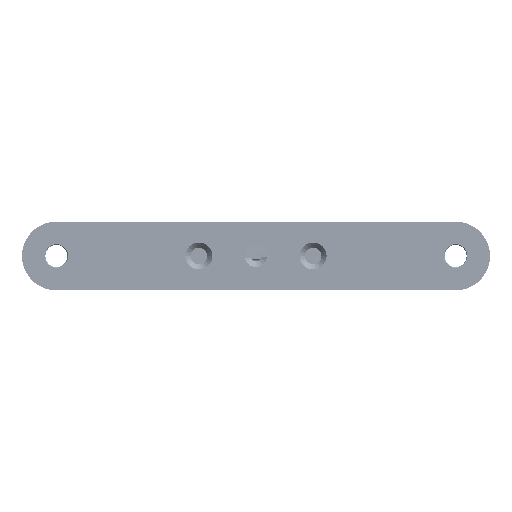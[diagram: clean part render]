
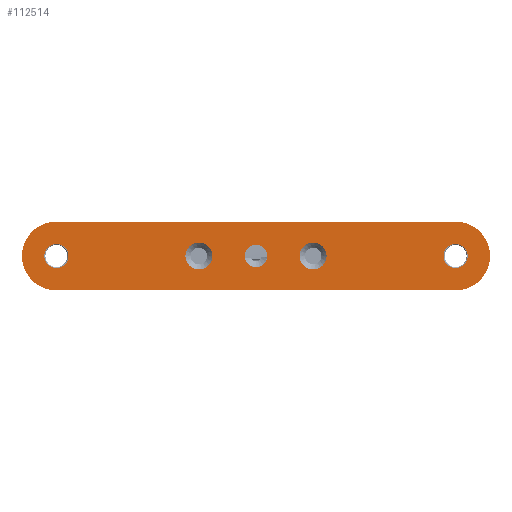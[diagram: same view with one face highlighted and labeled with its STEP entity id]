
A CAD part, front view. The second image highlights one B-rep face of the part: STEP entity #112514.
In plain terms, the highlighted planar face has unit normal (0, -1, 0).
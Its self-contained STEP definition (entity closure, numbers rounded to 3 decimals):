
#1233=PLANE('',#119114);
#4693=FACE_BOUND('',#12349,.T.);
#4694=FACE_BOUND('',#12350,.T.);
#4695=FACE_BOUND('',#12351,.T.);
#4696=FACE_BOUND('',#12352,.T.);
#4697=FACE_BOUND('',#12353,.T.);
#5960=FACE_OUTER_BOUND('',#12348,.T.);
#12348=EDGE_LOOP('',(#73387,#73388,#73389,#73390));
#12349=EDGE_LOOP('',(#73391));
#12350=EDGE_LOOP('',(#73392));
#12351=EDGE_LOOP('',(#73393));
#12352=EDGE_LOOP('',(#73394));
#12353=EDGE_LOOP('',(#73395));
#19372=CIRCLE('',#119086,1.95);
#19373=CIRCLE('',#119088,1.95);
#19378=CIRCLE('',#119098,1.65);
#19380=CIRCLE('',#119102,1.75);
#19381=CIRCLE('',#119104,1.75);
#19388=CIRCLE('',#119115,5.);
#19389=CIRCLE('',#119116,5.);
#25294=LINE('',#165681,#35663);
#25295=LINE('',#165684,#35664);
#35663=VECTOR('',#130419,10.);
#35664=VECTOR('',#130422,10.);
#46082=VERTEX_POINT('',#165626);
#46083=VERTEX_POINT('',#165630);
#46088=VERTEX_POINT('',#165648);
#46089=VERTEX_POINT('',#165654);
#46090=VERTEX_POINT('',#165658);
#46095=VERTEX_POINT('',#165677);
#46096=VERTEX_POINT('',#165678);
#46097=VERTEX_POINT('',#165680);
#46098=VERTEX_POINT('',#165682);
#56317=EDGE_CURVE('',#46082,#46082,#19372,.T.);
#56319=EDGE_CURVE('',#46083,#46083,#19373,.T.);
#56327=EDGE_CURVE('',#46088,#46088,#19378,.T.);
#56330=EDGE_CURVE('',#46089,#46089,#19380,.T.);
#56332=EDGE_CURVE('',#46090,#46090,#19381,.T.);
#56342=EDGE_CURVE('',#46095,#46096,#19388,.T.);
#56343=EDGE_CURVE('',#46097,#46095,#25294,.T.);
#56344=EDGE_CURVE('',#46098,#46097,#19389,.T.);
#56345=EDGE_CURVE('',#46096,#46098,#25295,.T.);
#73387=ORIENTED_EDGE('',*,*,#56342,.F.);
#73388=ORIENTED_EDGE('',*,*,#56343,.F.);
#73389=ORIENTED_EDGE('',*,*,#56344,.F.);
#73390=ORIENTED_EDGE('',*,*,#56345,.F.);
#73391=ORIENTED_EDGE('',*,*,#56317,.T.);
#73392=ORIENTED_EDGE('',*,*,#56319,.T.);
#73393=ORIENTED_EDGE('',*,*,#56330,.T.);
#73394=ORIENTED_EDGE('',*,*,#56332,.T.);
#73395=ORIENTED_EDGE('',*,*,#56327,.T.);
#112514=ADVANCED_FACE('',(#5960,#4693,#4694,#4695,#4696,#4697),#1233,.F.);
#119086=AXIS2_PLACEMENT_3D('',#165627,#130350,#130351);
#119088=AXIS2_PLACEMENT_3D('',#165631,#130355,#130356);
#119098=AXIS2_PLACEMENT_3D('',#165649,#130378,#130379);
#119102=AXIS2_PLACEMENT_3D('',#165655,#130387,#130388);
#119104=AXIS2_PLACEMENT_3D('',#165659,#130392,#130393);
#119114=AXIS2_PLACEMENT_3D('',#165676,#130415,#130416);
#119115=AXIS2_PLACEMENT_3D('',#165679,#130417,#130418);
#119116=AXIS2_PLACEMENT_3D('',#165683,#130420,#130421);
#130350=DIRECTION('center_axis',(0.,1.,0.));
#130351=DIRECTION('ref_axis',(-1.,0.,0.));
#130355=DIRECTION('center_axis',(0.,1.,0.));
#130356=DIRECTION('ref_axis',(-1.,0.,0.));
#130378=DIRECTION('center_axis',(0.,1.,0.));
#130379=DIRECTION('ref_axis',(-1.,0.,0.));
#130387=DIRECTION('center_axis',(0.,1.,0.));
#130388=DIRECTION('ref_axis',(-1.,0.,0.));
#130392=DIRECTION('center_axis',(0.,1.,0.));
#130393=DIRECTION('ref_axis',(-1.,0.,0.));
#130415=DIRECTION('center_axis',(0.,1.,0.));
#130416=DIRECTION('ref_axis',(1.,0.,0.));
#130417=DIRECTION('center_axis',(0.,1.,0.));
#130418=DIRECTION('ref_axis',(0.,0.,
-1.));
#130419=DIRECTION('',(-1.,0.,0.));
#130420=DIRECTION('center_axis',(0.,1.,0.));
#130421=DIRECTION('ref_axis',(0.,0.,
1.));
#130422=DIRECTION('',(1.,0.,0.));
#165626=CARTESIAN_POINT('',(-30.7,-49.1,-0.8));
#165627=CARTESIAN_POINT('Origin',(-32.65,-49.1,-0.8));
#165630=CARTESIAN_POINT('',(-14.1,-49.1,-0.8));
#165631=CARTESIAN_POINT('Origin',(-16.05,-49.1,-0.8));
#165648=CARTESIAN_POINT('',(-22.7,-49.1,-0.8));
#165649=CARTESIAN_POINT('Origin',(-24.35,-49.1,-0.8));
#165654=CARTESIAN_POINT('',(6.4,-49.1,-0.8));
#165655=CARTESIAN_POINT('Origin',(4.65,-49.1,-0.8));
#165658=CARTESIAN_POINT('',(-51.6,-49.1,-0.8));
#165659=CARTESIAN_POINT('Origin',(-53.35,-49.1,-0.8));
#165676=CARTESIAN_POINT('Origin',(-55.072,-49.1,-0.8));
#165677=CARTESIAN_POINT('',(-53.35,-49.1,-5.8));
#165678=CARTESIAN_POINT('',(-53.35,-49.1,4.2));
#165679=CARTESIAN_POINT('Origin',(-53.35,-49.1,-0.8));
#165680=CARTESIAN_POINT('',(4.65,-49.1,-5.8));
#165681=CARTESIAN_POINT('',(4.65,-49.1,-5.8));
#165682=CARTESIAN_POINT('',(4.65,-49.1,4.2));
#165683=CARTESIAN_POINT('Origin',(4.65,-49.1,-0.8));
#165684=CARTESIAN_POINT('',(-53.35,-49.1,4.2));
